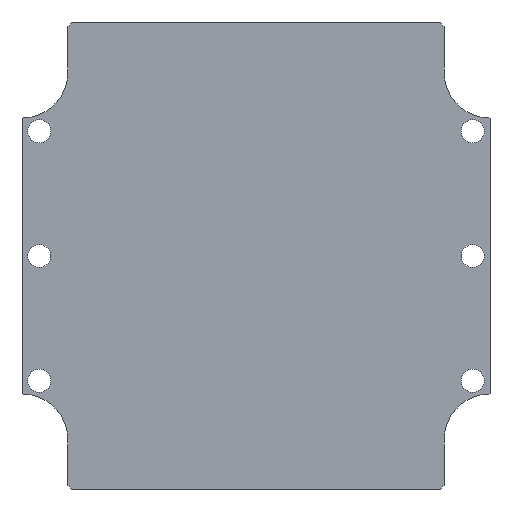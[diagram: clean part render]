
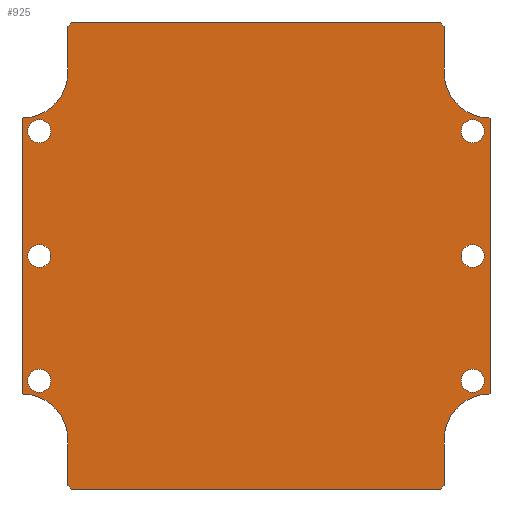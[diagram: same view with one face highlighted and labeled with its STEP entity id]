
A CAD part, top view. The second image highlights one B-rep face of the part: STEP entity #925.
In plain terms, the highlighted planar face has unit normal (0, 0, 1).
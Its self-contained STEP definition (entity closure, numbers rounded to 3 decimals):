
#49=CARTESIAN_POINT('',(96.325,91.216,0.5));
#50=VERTEX_POINT('',#49);
#51=CARTESIAN_POINT('',(97.325,90.216,0.5));
#52=VERTEX_POINT('',#51);
#53=CARTESIAN_POINT('',(96.325,91.216,0.5));
#54=DIRECTION('',(0.707,-0.707,0.0));
#55=VECTOR('',#54,1.414);
#56=LINE('',#53,#55);
#57=EDGE_CURVE('',#50,#52,#56,.T.);
#98=CARTESIAN_POINT('',(-16.175,91.216,0.5));
#99=VERTEX_POINT('',#98);
#106=CARTESIAN_POINT('',(-16.175,91.216,0.5));
#107=DIRECTION('',(1.0,0.0,0.0));
#108=VECTOR('',#107,112.5);
#109=LINE('',#106,#108);
#110=EDGE_CURVE('',#99,#50,#109,.T.);
#310=CARTESIAN_POINT('',(-16.175,-50.784,0.5));
#311=VERTEX_POINT('',#310);
#312=CARTESIAN_POINT('',(-17.175,-49.784,0.5));
#313=VERTEX_POINT('',#312);
#314=CARTESIAN_POINT('',(-16.175,-50.784,0.5));
#315=DIRECTION('',(-0.707,0.707,0.0));
#316=VECTOR('',#315,1.414);
#317=LINE('',#314,#316);
#318=EDGE_CURVE('',#311,#313,#317,.T.);
#343=CARTESIAN_POINT('',(96.325,-50.784,0.5));
#344=VERTEX_POINT('',#343);
#351=CARTESIAN_POINT('',(96.325,-50.784,0.5));
#352=DIRECTION('',(-1.0,0.0,0.0));
#353=VECTOR('',#352,112.5);
#354=LINE('',#351,#353);
#355=EDGE_CURVE('',#344,#311,#354,.T.);
#365=CARTESIAN_POINT('',(97.325,-49.784,0.5));
#366=VERTEX_POINT('',#365);
#367=CARTESIAN_POINT('',(97.325,-49.784,0.5));
#368=DIRECTION('',(-0.707,-0.707,0.0));
#369=VECTOR('',#368,1.414);
#370=LINE('',#367,#369);
#371=EDGE_CURVE('',#366,#344,#370,.T.);
#391=CARTESIAN_POINT('',(97.325,-35.784,0.5));
#392=VERTEX_POINT('',#391);
#399=CARTESIAN_POINT('',(97.325,-35.784,0.5));
#400=DIRECTION('',(0.0,-1.0,0.0));
#401=VECTOR('',#400,14.);
#402=LINE('',#399,#401);
#403=EDGE_CURVE('',#392,#366,#402,.T.);
#413=CARTESIAN_POINT('',(-17.175,90.216,0.5));
#414=VERTEX_POINT('',#413);
#415=CARTESIAN_POINT('',(-17.175,90.216,0.5));
#416=DIRECTION('',(0.707,0.707,0.0));
#417=VECTOR('',#416,1.414);
#418=LINE('',#415,#417);
#419=EDGE_CURVE('',#414,#99,#418,.T.);
#461=CARTESIAN_POINT('',(109.575,58.216,0.5));
#462=VERTEX_POINT('',#461);
#463=CARTESIAN_POINT('',(106.075,58.216,0.5));
#464=DIRECTION('',(0.0,0.0,-1.0));
#465=DIRECTION('',(1.0,0.0,0.0));
#466=AXIS2_PLACEMENT_3D('',#463,#464,#465);
#467=CIRCLE('',#466,3.5);
#468=EDGE_CURVE('',#462,#462,#467,.T.);
#502=CARTESIAN_POINT('',(-22.425,-17.784,0.5));
#503=VERTEX_POINT('',#502);
#504=CARTESIAN_POINT('',(-25.925,-17.784,0.5));
#505=DIRECTION('',(0.0,0.0,-1.0));
#506=DIRECTION('',(1.0,0.0,0.0));
#507=AXIS2_PLACEMENT_3D('',#504,#505,#506);
#508=CIRCLE('',#507,3.5);
#509=EDGE_CURVE('',#503,#503,#508,.T.);
#543=CARTESIAN_POINT('',(-22.425,20.216,0.5));
#544=VERTEX_POINT('',#543);
#545=CARTESIAN_POINT('',(-25.925,20.216,0.5));
#546=DIRECTION('',(0.0,0.0,-1.0));
#547=DIRECTION('',(1.0,0.0,0.0));
#548=AXIS2_PLACEMENT_3D('',#545,#546,#547);
#549=CIRCLE('',#548,3.5);
#550=EDGE_CURVE('',#544,#544,#549,.T.);
#584=CARTESIAN_POINT('',(109.575,20.216,0.5));
#585=VERTEX_POINT('',#584);
#586=CARTESIAN_POINT('',(106.075,20.216,0.5));
#587=DIRECTION('',(0.0,0.0,-1.0));
#588=DIRECTION('',(1.0,0.0,0.0));
#589=AXIS2_PLACEMENT_3D('',#586,#587,#588);
#590=CIRCLE('',#589,3.5);
#591=EDGE_CURVE('',#585,#585,#590,.T.);
#625=CARTESIAN_POINT('',(109.575,-17.784,0.5));
#626=VERTEX_POINT('',#625);
#627=CARTESIAN_POINT('',(106.075,-17.784,0.5));
#628=DIRECTION('',(0.0,0.0,-1.0));
#629=DIRECTION('',(1.0,0.0,0.0));
#630=AXIS2_PLACEMENT_3D('',#627,#628,#629);
#631=CIRCLE('',#630,3.5);
#632=EDGE_CURVE('',#626,#626,#631,.T.);
#666=CARTESIAN_POINT('',(-22.425,58.216,0.5));
#667=VERTEX_POINT('',#666);
#668=CARTESIAN_POINT('',(-25.925,58.216,0.5));
#669=DIRECTION('',(0.0,0.0,-1.0));
#670=DIRECTION('',(1.0,0.0,0.0));
#671=AXIS2_PLACEMENT_3D('',#668,#669,#670);
#672=CIRCLE('',#671,3.5);
#673=EDGE_CURVE('',#667,#667,#672,.T.);
#683=CARTESIAN_POINT('',(97.325,76.216,0.5));
#684=VERTEX_POINT('',#683);
#685=CARTESIAN_POINT('',(111.325,62.216,0.5));
#686=VERTEX_POINT('',#685);
#687=CARTESIAN_POINT('',(111.325,76.216,0.5));
#688=DIRECTION('',(0.0,0.0,1.0));
#689=DIRECTION('',(1.0,0.0,0.0));
#690=AXIS2_PLACEMENT_3D('',#687,#688,#689);
#691=CIRCLE('',#690,14.);
#692=EDGE_CURVE('',#684,#686,#691,.T.);
#715=CARTESIAN_POINT('',(111.325,-21.784,0.5));
#716=VERTEX_POINT('',#715);
#717=CARTESIAN_POINT('',(111.325,62.216,0.5));
#718=DIRECTION('',(0.0,-1.0,0.0));
#719=VECTOR('',#718,84.0);
#720=LINE('',#717,#719);
#721=EDGE_CURVE('',#686,#716,#720,.T.);
#739=CARTESIAN_POINT('',(111.325,-35.784,0.5));
#740=DIRECTION('',(0.0,0.0,1.0));
#741=DIRECTION('',(0.0,-1.0,0.0));
#742=AXIS2_PLACEMENT_3D('',#739,#740,#741);
#743=CIRCLE('',#742,14.);
#744=EDGE_CURVE('',#716,#392,#743,.T.);
#758=CARTESIAN_POINT('',(-17.175,-35.784,0.5));
#759=VERTEX_POINT('',#758);
#760=CARTESIAN_POINT('',(-17.175,-49.784,0.5));
#761=DIRECTION('',(0.0,1.0,0.0));
#762=VECTOR('',#761,14.);
#763=LINE('',#760,#762);
#764=EDGE_CURVE('',#313,#759,#763,.T.);
#781=CARTESIAN_POINT('',(-31.175,-21.784,0.5));
#782=VERTEX_POINT('',#781);
#783=CARTESIAN_POINT('',(-31.175,-35.784,0.5));
#784=DIRECTION('',(0.0,0.0,1.0));
#785=DIRECTION('',(-1.0,0.0,0.0));
#786=AXIS2_PLACEMENT_3D('',#783,#784,#785);
#787=CIRCLE('',#786,14.);
#788=EDGE_CURVE('',#759,#782,#787,.T.);
#806=CARTESIAN_POINT('',(-31.175,62.216,0.5));
#807=VERTEX_POINT('',#806);
#808=CARTESIAN_POINT('',(-31.175,-21.784,0.5));
#809=DIRECTION('',(0.0,1.0,0.0));
#810=VECTOR('',#809,84.0);
#811=LINE('',#808,#810);
#812=EDGE_CURVE('',#782,#807,#811,.T.);
#830=CARTESIAN_POINT('',(-17.175,76.216,0.5));
#831=VERTEX_POINT('',#830);
#832=CARTESIAN_POINT('',(-31.175,76.216,0.5));
#833=DIRECTION('',(0.0,0.0,1.0));
#834=DIRECTION('',(0.0,1.0,0.0));
#835=AXIS2_PLACEMENT_3D('',#832,#833,#834);
#836=CIRCLE('',#835,14.);
#837=EDGE_CURVE('',#807,#831,#836,.T.);
#858=CARTESIAN_POINT('',(-17.175,76.216,0.5));
#859=DIRECTION('',(0.0,1.0,0.0));
#860=VECTOR('',#859,14.);
#861=LINE('',#858,#860);
#862=EDGE_CURVE('',#831,#414,#861,.T.);
#873=CARTESIAN_POINT('',(97.325,90.216,0.5));
#874=DIRECTION('',(0.0,-1.0,0.0));
#875=VECTOR('',#874,14.0);
#876=LINE('',#873,#875);
#877=EDGE_CURVE('',#52,#684,#876,.T.);
#884=CARTESIAN_POINT('',(40.075,20.216,0.5));
#885=DIRECTION('',(0.0,0.0,1.0));
#886=DIRECTION('',(1.0,0.0,0.0));
#887=AXIS2_PLACEMENT_3D('',#884,#885,#886);
#888=PLANE('',#887);
#889=ORIENTED_EDGE('',*,*,#57,.F.);
#890=ORIENTED_EDGE('',*,*,#110,.F.);
#891=ORIENTED_EDGE('',*,*,#419,.F.);
#892=ORIENTED_EDGE('',*,*,#862,.F.);
#893=ORIENTED_EDGE('',*,*,#837,.F.);
#894=ORIENTED_EDGE('',*,*,#812,.F.);
#895=ORIENTED_EDGE('',*,*,#788,.F.);
#896=ORIENTED_EDGE('',*,*,#764,.F.);
#897=ORIENTED_EDGE('',*,*,#318,.F.);
#898=ORIENTED_EDGE('',*,*,#355,.F.);
#899=ORIENTED_EDGE('',*,*,#371,.F.);
#900=ORIENTED_EDGE('',*,*,#403,.F.);
#901=ORIENTED_EDGE('',*,*,#744,.F.);
#902=ORIENTED_EDGE('',*,*,#721,.F.);
#903=ORIENTED_EDGE('',*,*,#692,.F.);
#904=ORIENTED_EDGE('',*,*,#877,.F.);
#905=EDGE_LOOP('',(#889,#890,#891,#892,#893,#894,#895,#896,#897,#898,#899,#900,#901,#902,#903,#904));
#906=FACE_OUTER_BOUND('',#905,.T.);
#907=ORIENTED_EDGE('',*,*,#468,.T.);
#908=EDGE_LOOP('',(#907));
#909=FACE_BOUND('',#908,.T.);
#910=ORIENTED_EDGE('',*,*,#509,.T.);
#911=EDGE_LOOP('',(#910));
#912=FACE_BOUND('',#911,.T.);
#913=ORIENTED_EDGE('',*,*,#550,.T.);
#914=EDGE_LOOP('',(#913));
#915=FACE_BOUND('',#914,.T.);
#916=ORIENTED_EDGE('',*,*,#591,.T.);
#917=EDGE_LOOP('',(#916));
#918=FACE_BOUND('',#917,.T.);
#919=ORIENTED_EDGE('',*,*,#632,.T.);
#920=EDGE_LOOP('',(#919));
#921=FACE_BOUND('',#920,.T.);
#922=ORIENTED_EDGE('',*,*,#673,.T.);
#923=EDGE_LOOP('',(#922));
#924=FACE_BOUND('',#923,.T.);
#925=ADVANCED_FACE('',(#906,#909,#912,#915,#918,#921,#924),#888,.T.);
